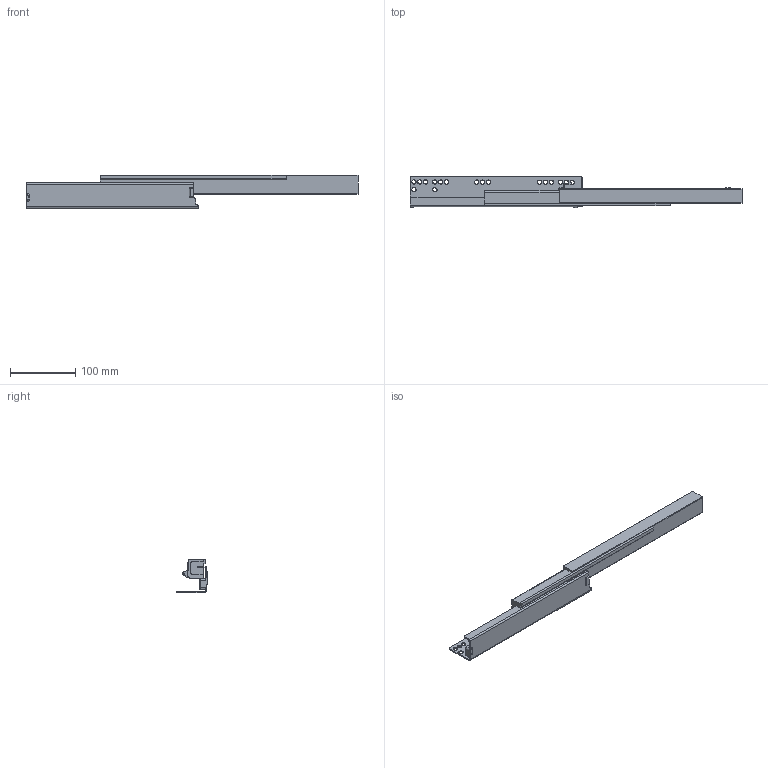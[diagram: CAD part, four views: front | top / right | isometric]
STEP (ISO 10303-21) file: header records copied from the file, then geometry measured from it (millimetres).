
FILE_DESCRIPTION (( 'STEP AP203' ), '1' );
FILE_NAME ('HT103004H-R(´ò¿ª).STEP', '2021-07-31T01:18:51', ( 'Users' ), ( 'Microsoft' ), 'SwSTEP 2.0', 'SolidWorks 2018', '' );
FILE_SCHEMA (( 'CONFIG_CONTROL_DESIGN' ));
Length unit declared in the file: millimetre
Products named in the file (1): HT103004H-R(湖羲)
Bounding box: 507.3 x 47.5 x 51.73 mm (x, y, z)
Volume: 297148.7 mm3; surface area: 91858.1 mm2
Topology: 1 solids, 2 shells, 218 faces, 573 edges, 359 vertices
Faces by surface type: cylinder 97, plane 67, cone 40, torus 12, sphere 2
Entity records: 6880 total; most frequent: DIRECTION 1254, CARTESIAN_POINT 1164, ORIENTED_EDGE 1142, EDGE_CURVE 571, AXIS2_PLACEMENT_3D 469, VERTEX_POINT 359, VECTOR 316, LINE 316
